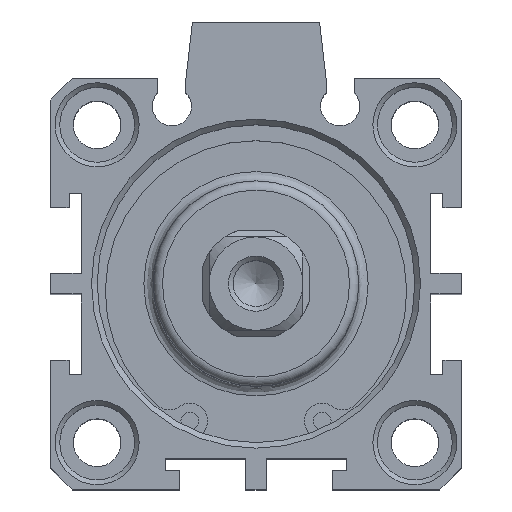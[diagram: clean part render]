
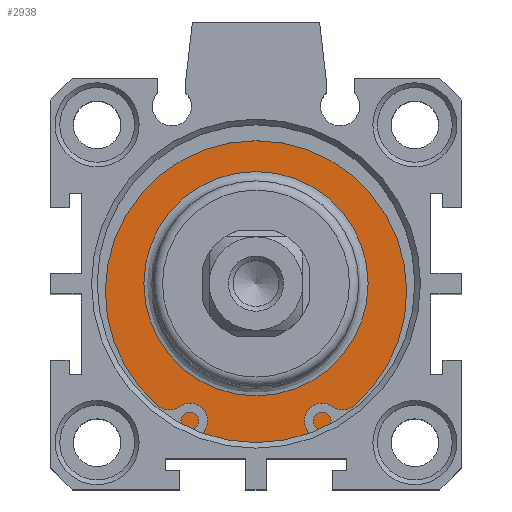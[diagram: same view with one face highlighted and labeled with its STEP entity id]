
A CAD part, top view. The second image highlights one B-rep face of the part: STEP entity #2938.
In plain terms, the highlighted planar face has unit normal (0, 0, 1).
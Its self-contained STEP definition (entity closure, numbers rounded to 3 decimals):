
#2887=CARTESIAN_POINT('',(-3.726,11.88,40.3));
#2888=VERTEX_POINT('',#2887);
#2889=CARTESIAN_POINT('',(-3.726,-0.12,40.3));
#2890=DIRECTION('',(0.0,0.0,1.0));
#2891=DIRECTION('',(0.0,-1.0,0.0));
#2892=AXIS2_PLACEMENT_3D('',#2889,#2890,#2891);
#2893=CIRCLE('',#2892,12.);
#2894=EDGE_CURVE('',#2888,#2888,#2893,.T.);
#2919=CARTESIAN_POINT('',(-3.726,13.88,40.3));
#2920=DIRECTION('',(0.0,0.0,1.0));
#2921=DIRECTION('',(1.0,0.0,0.0));
#2922=AXIS2_PLACEMENT_3D('',#2919,#2920,#2921);
#2923=PLANE('',#2922);
#2924=CARTESIAN_POINT('',(-3.726,16.88,40.3));
#2925=VERTEX_POINT('',#2924);
#2926=CARTESIAN_POINT('',(-3.726,-0.12,40.3));
#2927=DIRECTION('',(0.0,0.0,-1.0));
#2928=DIRECTION('',(0.0,1.0,0.0));
#2929=AXIS2_PLACEMENT_3D('',#2926,#2927,#2928);
#2930=CIRCLE('',#2929,17.0);
#2931=EDGE_CURVE('',#2925,#2925,#2930,.T.);
#2932=ORIENTED_EDGE('',*,*,#2931,.F.);
#2933=EDGE_LOOP('',(#2932));
#2934=FACE_OUTER_BOUND('',#2933,.T.);
#2935=ORIENTED_EDGE('',*,*,#2894,.F.);
#2936=EDGE_LOOP('',(#2935));
#2937=FACE_BOUND('',#2936,.T.);
#2938=ADVANCED_FACE('',(#2934,#2937),#2923,.T.);
